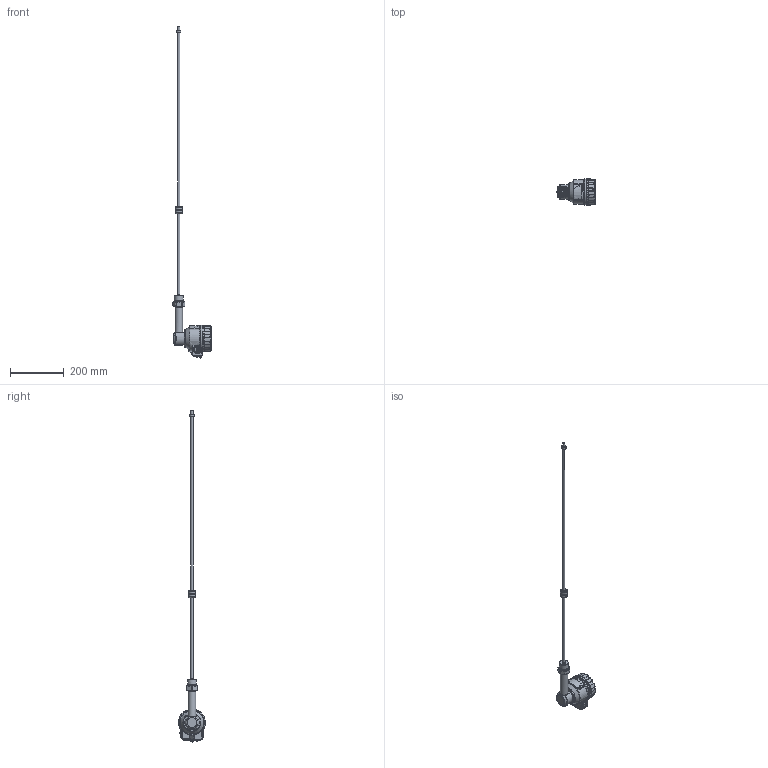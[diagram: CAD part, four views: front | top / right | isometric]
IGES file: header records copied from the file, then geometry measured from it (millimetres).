
Global section: file name: M_RK_Bszer_1,5col; native system: Autodesk Inventor 2015; preprocessor: unknown; author: aantal; date: 20150306.112136; units: millimetre
Bounding box: 143.4 x 100 x 1236.86 mm (x, y, z)
Volume: 878239.7 mm3; surface area: 144248.2 mm2
Topology: 15 solids, 15 shells, 1224 faces, 3089 edges, 1948 vertices
Faces by surface type: bspline 1224
